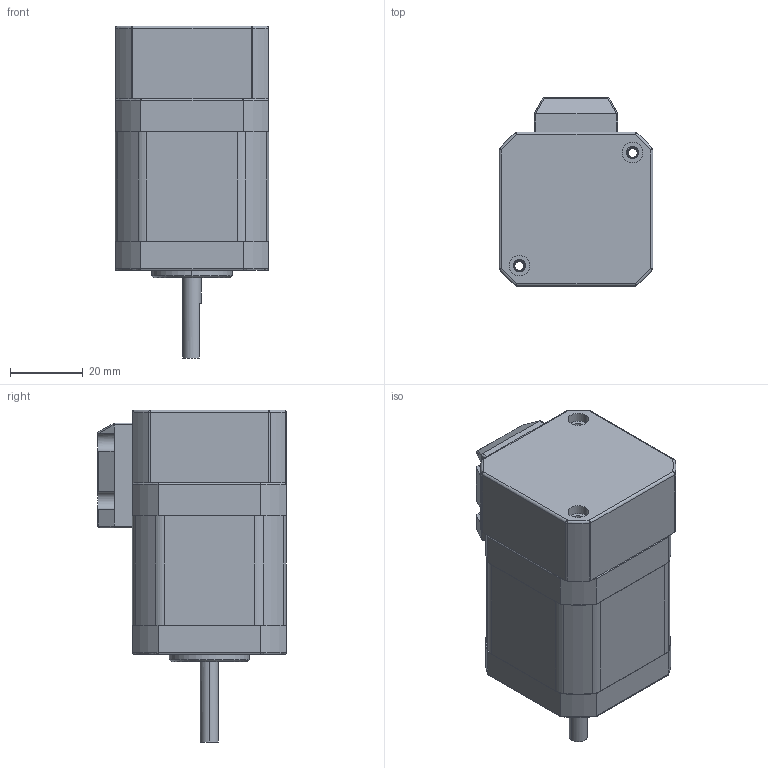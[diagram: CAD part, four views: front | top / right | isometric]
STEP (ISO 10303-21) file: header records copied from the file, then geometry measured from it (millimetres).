
FILE_DESCRIPTION (( 'STEP AP214' ), '1' );
FILE_NAME ('S42-48-M3.STEP', '2024-12-13T02:44:13', ( 'Muse' ), ( 'Muse' ), 'SwSTEP 2.0', 'SolidWorks 2020', '' );
FILE_SCHEMA (( 'AUTOMOTIVE_DESIGN' ));
Length unit declared in the file: millimetre
Products named in the file (10): 42邧謂揤盄啣; S42-48-M3; 晤鎢ん郪璃; 蛌赽郪璃; 蛌粣; 605 粣創; 4B0420004 电泳后盖_电泳后盖; 4B0420003 萇蚞ヶ裔_萇蚞ヶ裔; 4B0421004 42-30-1.8 隅赽_42--30-1.8 隅赽; 42綴欶
Assembly tree (10 placements, depth 3):
  S42-48-M3
    4B0420004 电泳后盖_电泳后盖
    蛌赽郪璃
      蛌粣
      605 粣創  x2
    4B0421004 42-30-1.8 隅赽_42--30-1.8 隅赽
    4B0420003 萇蚞ヶ裔_萇蚞ヶ裔
    晤鎢ん郪璃
      42綴欶
      42邧謂揤盄啣
Bounding box: 42.2 x 51.7 x 91 mm (x, y, z)
Volume: 51207.5 mm3; surface area: 48829.4 mm2
Topology: 9 solids, 9 shells, 1009 faces, 3034 edges, 1938 vertices
Faces by surface type: cylinder 519, plane 289, torus 100, sphere 90, cone 10, bspline 1
Entity records: 31319 total; most frequent: CARTESIAN_POINT 6071, DIRECTION 5312, ORIENTED_EDGE 5152, EDGE_CURVE 2576, AXIS2_PLACEMENT_3D 2039, VERTEX_POINT 1681, LINE 1234, VECTOR 1234
